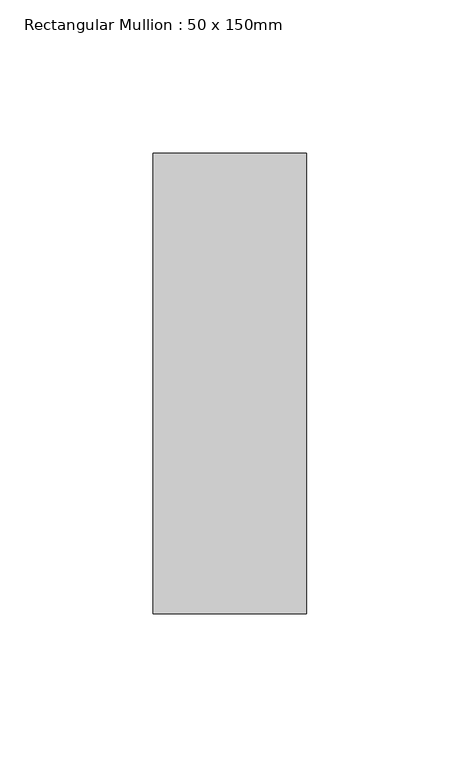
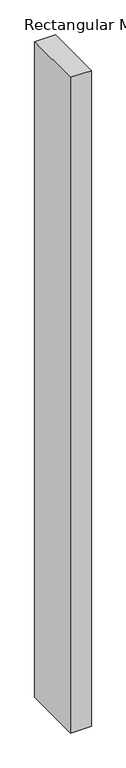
"""IFC4 building model written with IfcOpenShell, lengths in millimetres: member geometry, Rectangular Mullion : 50 x 150mm."""

from ifc_helpers import new_model, si_unit, frame, origin, place, context, project, spatial, polyline, outline, extrude, source, transform, mapped, element, save


def rectangular_mullion_50_x_150mm_df64ae28(model_context):
    return source(origin(), model_context, "Body", "SweptSolid", [
        extrude(outline(polyline([(0.0, 0.0), (-0.1172617, -50.0), (-1672.499926, -50.0), (-1672.6144923, 0.0), (0.0, 0.0)])), frame((0.0, -75.0, 0.0), z_axis=(0.0, 1.0, 0.0), x_axis=(0.0, 0.0, 1.0)), (0.0, 0.0, 1.0), 150.0),
    ])


if __name__ == "__main__":
    model = new_model("IFC4")
    model_context = context("Model", 3, world=origin())
    ifc_project = project(units=[si_unit("LENGTHUNIT", "METRE", prefix="MILLI")], contexts=[model_context])
    site = spatial("IfcSite", under=ifc_project)
    building = spatial("IfcBuilding", under=site)
    placement = place(None, origin())
    rectangular_mullion_50_x_150mm_shape = rectangular_mullion_50_x_150mm_df64ae28(model_context)
    element("IfcMember", 1, ObjectType="Rectangular Mullion : 50 x 150mm", at=placement, inside=building, context=model_context, shape_type="MappedRepresentation", body=[
        mapped(rectangular_mullion_50_x_150mm_shape, transform((0.0, 0.0, 0.0), x_axis=(1.0, 0.0, 0.0), y_axis=(0.0, 1.0, 0.0), z_axis=(0.0, 0.0, 1.0))),
    ])
    save(model, "model.ifc")
